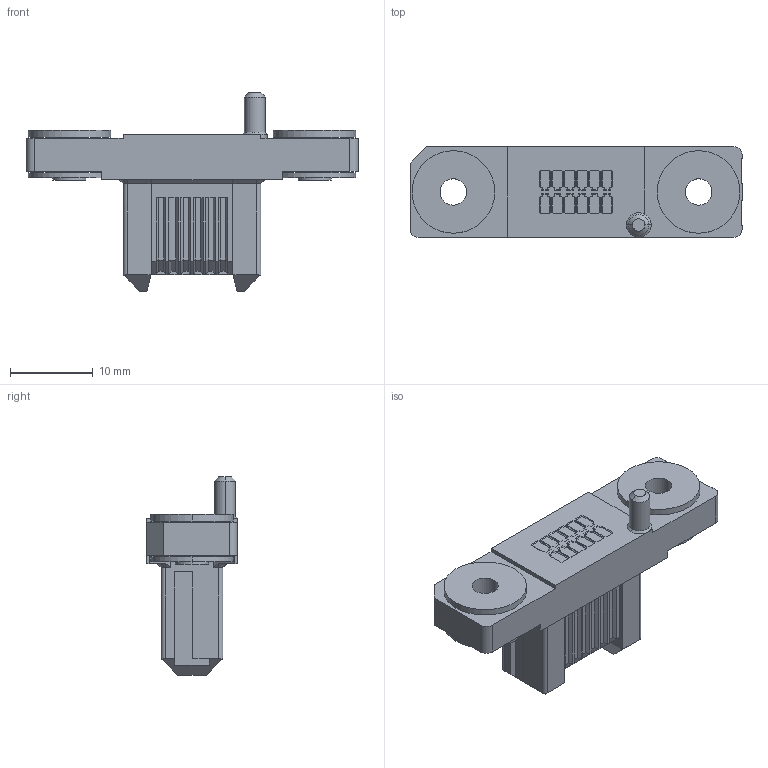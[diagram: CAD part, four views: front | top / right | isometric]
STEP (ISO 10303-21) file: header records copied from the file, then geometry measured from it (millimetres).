
FILE_DESCRIPTION(('CoCreate Modeling STEP Export'),'2;1');
FILE_NAME('P3C789_FAS01-012.stp','2017-07-28T15:00:19',(''),(''),'CoCreate Modeling STEP processor for AP214 (Solid Model)','CoCreate Modeling 17.0B 09-Oct-2010 (C) Parametric Technology GmbH','');
FILE_SCHEMA(('AUTOMOTIVE_DESIGN { 1 0 10303 214 1 1 1 1 }'));
Length unit declared in the file: millimetre
Products named in the file (2): FAS01-012
Assembly tree (1 placements, depth 2):
  FAS01-012
    FAS01-012
Bounding box: 40.2 x 11 x 24 mm (x, y, z)
Volume: 3475.2 mm3; surface area: 2800.5 mm2
Topology: 1 solids, 1 shells, 432 faces, 1104 edges, 696 vertices
Faces by surface type: plane 390, cylinder 34, cone 8
Entity records: 12614 total; most frequent: ORIENTED_EDGE 2208, CARTESIAN_POINT 2204, DIRECTION 1995, EDGE_CURVE 1104, VECTOR 1021, LINE 1021, VERTEX_POINT 696, AXIS2_PLACEMENT_3D 487
